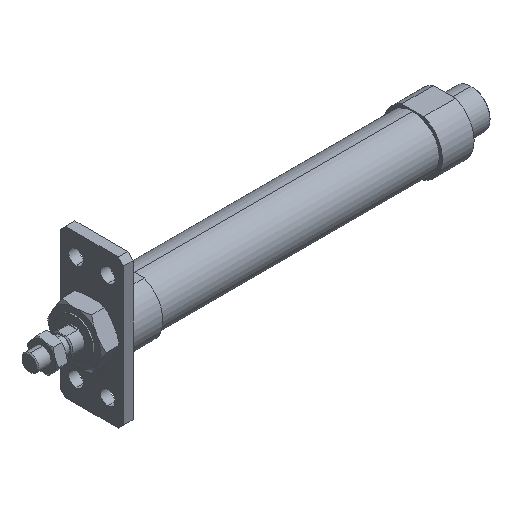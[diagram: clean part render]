
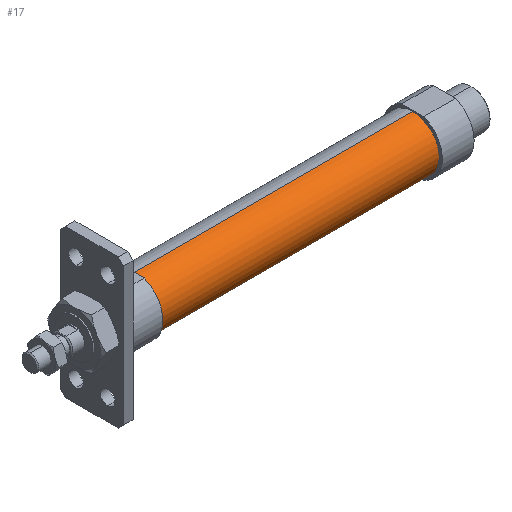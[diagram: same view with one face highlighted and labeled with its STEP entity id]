
A CAD part, isometric view. The second image highlights one B-rep face of the part: STEP entity #17.
In plain terms, the highlighted cylindrical face has radius 12.5 mm (diameter 25 mm), a partial arc.
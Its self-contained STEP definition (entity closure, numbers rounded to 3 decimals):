
#4 = DIRECTION ( 'NONE',  ( -1., 0., 0. ) ) ;
#17 = ADVANCED_FACE ( 'NONE', ( #1731 ), #1417, .T. ) ;
#36 = AXIS2_PLACEMENT_3D ( 'NONE', #742, #2088, #1323 ) ;
#226 = ORIENTED_EDGE ( 'NONE', *, *, #3321, .F. ) ;
#289 = VERTEX_POINT ( 'NONE', #3199 ) ;
#591 = DIRECTION ( 'NONE',  ( 0., 0., 1. ) ) ;
#690 = VERTEX_POINT ( 'NONE', #884 ) ;
#742 = CARTESIAN_POINT ( 'NONE',  ( 181., 0., 0. ) ) ;
#884 = CARTESIAN_POINT ( 'NONE',  ( 181., 0., 12.5 ) ) ;
#1064 = CIRCLE ( 'NONE', #36, 12.5 ) ;
#1122 = LINE ( 'NONE', #2072, #2773 ) ;
#1170 = VERTEX_POINT ( 'NONE', #1419 ) ;
#1323 = DIRECTION ( 'NONE',  ( 0., 0., 1. ) ) ;
#1364 = ORIENTED_EDGE ( 'NONE', *, *, #3276, .T. ) ;
#1397 = EDGE_LOOP ( 'NONE', ( #2468, #3999, #1364, #226 ) ) ;
#1417 = CYLINDRICAL_SURFACE ( 'NONE', #1920, 12.5 ) ;
#1419 = CARTESIAN_POINT ( 'NONE',  ( 49., 0., 12.5 ) ) ;
#1484 = DIRECTION ( 'NONE',  ( 0., 0., 1. ) ) ;
#1543 = DIRECTION ( 'NONE',  ( -1., 0., 0. ) ) ;
#1731 = FACE_OUTER_BOUND ( 'NONE', #1397, .T. ) ;
#1840 = VERTEX_POINT ( 'NONE', #2231 ) ;
#1849 = EDGE_CURVE ( 'NONE', #1840, #690, #1064, .T. ) ;
#1920 = AXIS2_PLACEMENT_3D ( 'NONE', #3237, #3039, #591 ) ;
#2072 = CARTESIAN_POINT ( 'NONE',  ( -6.469, 0., -12.5 ) ) ;
#2088 = DIRECTION ( 'NONE',  ( -1., 0., 0. ) ) ;
#2231 = CARTESIAN_POINT ( 'NONE',  ( 181., 0., -12.5 ) ) ;
#2257 = LINE ( 'NONE', #3170, #3806 ) ;
#2468 = ORIENTED_EDGE ( 'NONE', *, *, #3716, .F. ) ;
#2635 = AXIS2_PLACEMENT_3D ( 'NONE', #3035, #1543, #1484 ) ;
#2773 = VECTOR ( 'NONE', #4, 1000. ) ;
#2937 = CIRCLE ( 'NONE', #2635, 12.5 ) ;
#2957 = DIRECTION ( 'NONE',  ( -1., 0., 0. ) ) ;
#3035 = CARTESIAN_POINT ( 'NONE',  ( 49., 0., 0. ) ) ;
#3039 = DIRECTION ( 'NONE',  ( -1., 0., 0. ) ) ;
#3170 = CARTESIAN_POINT ( 'NONE',  ( -6.469, 0., 12.5 ) ) ;
#3199 = CARTESIAN_POINT ( 'NONE',  ( 49., 0., -12.5 ) ) ;
#3237 = CARTESIAN_POINT ( 'NONE',  ( -6.469, 0., 0. ) ) ;
#3276 = EDGE_CURVE ( 'NONE', #690, #1170, #2257, .T. ) ;
#3321 = EDGE_CURVE ( 'NONE', #289, #1170, #2937, .T. ) ;
#3716 = EDGE_CURVE ( 'NONE', #1840, #289, #1122, .T. ) ;
#3806 = VECTOR ( 'NONE', #2957, 1000. ) ;
#3999 = ORIENTED_EDGE ( 'NONE', *, *, #1849, .T. ) ;
